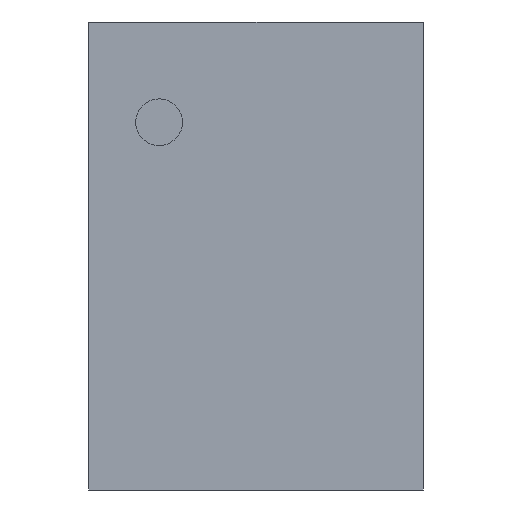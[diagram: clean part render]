
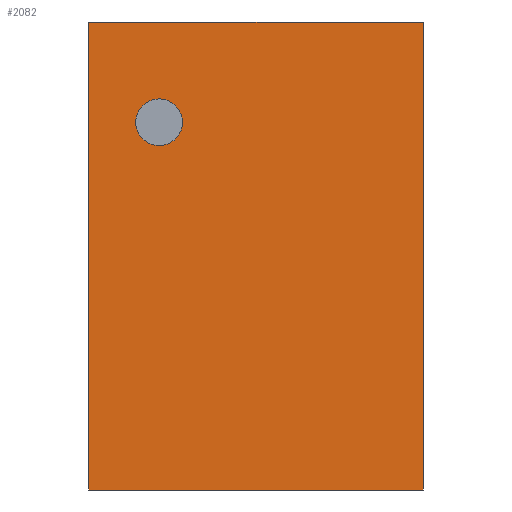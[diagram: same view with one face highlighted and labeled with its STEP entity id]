
A CAD part, left-side view. The second image highlights one B-rep face of the part: STEP entity #2082.
In plain terms, the highlighted planar face has unit normal (-1, 0, 0).
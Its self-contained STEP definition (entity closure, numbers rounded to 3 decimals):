
#53 = DIRECTION ( 'NONE',  ( -1., 0., 0. ) ) ;
#93 = VERTEX_POINT ( 'NONE', #512 ) ;
#296 = DIRECTION ( 'NONE',  ( 0., 0., 1. ) ) ;
#348 = LINE ( 'NONE', #1146, #1915 ) ;
#389 = CARTESIAN_POINT ( 'NONE',  ( -50., 50., 2140. ) ) ;
#410 = EDGE_LOOP ( 'NONE', ( #800, #1965, #2292, #1743 ) ) ;
#493 = CARTESIAN_POINT ( 'NONE',  ( -50., 50., 2140. ) ) ;
#512 = CARTESIAN_POINT ( 'NONE',  ( -50., 50., 2150. ) ) ;
#680 = CARTESIAN_POINT ( 'NONE',  ( -50., 29., 2260. ) ) ;
#752 = DIRECTION ( 'NONE',  ( 0., -1., 0. ) ) ;
#769 = CIRCLE ( 'NONE', #2196, 7. ) ;
#787 = CARTESIAN_POINT ( 'NONE',  ( -50., 22., 2260. ) ) ;
#800 = ORIENTED_EDGE ( 'NONE', *, *, #1546, .T. ) ;
#818 = DIRECTION ( 'NONE',  ( 1., 0., 0. ) ) ;
#826 = VERTEX_POINT ( 'NONE', #2170 ) ;
#831 = EDGE_CURVE ( 'NONE', #93, #1799, #1508, .T. ) ;
#902 = AXIS2_PLACEMENT_3D ( 'NONE', #680, #53, #1075 ) ;
#915 = VERTEX_POINT ( 'NONE', #787 ) ;
#937 = DIRECTION ( 'NONE',  ( 0., 0., 1. ) ) ;
#945 = DIRECTION ( 'NONE',  ( -1., 0., 0. ) ) ;
#954 = VERTEX_POINT ( 'NONE', #2338 ) ;
#1011 = CARTESIAN_POINT ( 'NONE',  ( -50., 50., 2290. ) ) ;
#1064 = DIRECTION ( 'NONE',  ( 0., 1., 0. ) ) ;
#1075 = DIRECTION ( 'NONE',  ( 0., -1., 0. ) ) ;
#1146 = CARTESIAN_POINT ( 'NONE',  ( -50., -50., 2140. ) ) ;
#1193 = LINE ( 'NONE', #2175, #2289 ) ;
#1205 = EDGE_CURVE ( 'NONE', #915, #826, #769, .T. ) ;
#1330 = EDGE_CURVE ( 'NONE', #826, #915, #2007, .T. ) ;
#1505 = ORIENTED_EDGE ( 'NONE', *, *, #1205, .F. ) ;
#1508 = LINE ( 'NONE', #493, #2112 ) ;
#1546 = EDGE_CURVE ( 'NONE', #2530, #954, #348, .T. ) ;
#1561 = EDGE_LOOP ( 'NONE', ( #1505, #2086 ) ) ;
#1629 = AXIS2_PLACEMENT_3D ( 'NONE', #389, #818, #1645 ) ;
#1633 = FACE_BOUND ( 'NONE', #1561, .T. ) ;
#1645 = DIRECTION ( 'NONE',  ( 0., 1., 0. ) ) ;
#1655 = CARTESIAN_POINT ( 'NONE',  ( -50., 50., 2290. ) ) ;
#1743 = ORIENTED_EDGE ( 'NONE', *, *, #2221, .T. ) ;
#1781 = CARTESIAN_POINT ( 'NONE',  ( -50., -50., 2150. ) ) ;
#1787 = EDGE_CURVE ( 'NONE', #954, #1799, #2054, .T. ) ;
#1799 = VERTEX_POINT ( 'NONE', #1655 ) ;
#1815 = PLANE ( 'NONE',  #1629 ) ;
#1915 = VECTOR ( 'NONE', #937, 1000. ) ;
#1965 = ORIENTED_EDGE ( 'NONE', *, *, #1787, .T. ) ;
#1993 = DIRECTION ( 'NONE',  ( 0., -1., 0. ) ) ;
#2007 = CIRCLE ( 'NONE', #902, 7. ) ;
#2054 = LINE ( 'NONE', #1011, #2596 ) ;
#2082 = ADVANCED_FACE ( 'NONE', ( #1633, #2464 ), #1815, .F. ) ;
#2086 = ORIENTED_EDGE ( 'NONE', *, *, #1330, .F. ) ;
#2112 = VECTOR ( 'NONE', #296, 1000. ) ;
#2170 = CARTESIAN_POINT ( 'NONE',  ( -50., 36., 2260. ) ) ;
#2175 = CARTESIAN_POINT ( 'NONE',  ( -50., 50., 2150. ) ) ;
#2196 = AXIS2_PLACEMENT_3D ( 'NONE', #2388, #945, #752 ) ;
#2221 = EDGE_CURVE ( 'NONE', #93, #2530, #1193, .T. ) ;
#2289 = VECTOR ( 'NONE', #1993, 1000. ) ;
#2292 = ORIENTED_EDGE ( 'NONE', *, *, #831, .F. ) ;
#2338 = CARTESIAN_POINT ( 'NONE',  ( -50., -50., 2290. ) ) ;
#2388 = CARTESIAN_POINT ( 'NONE',  ( -50., 29., 2260. ) ) ;
#2464 = FACE_OUTER_BOUND ( 'NONE', #410, .T. ) ;
#2530 = VERTEX_POINT ( 'NONE', #1781 ) ;
#2596 = VECTOR ( 'NONE', #1064, 1000. ) ;
